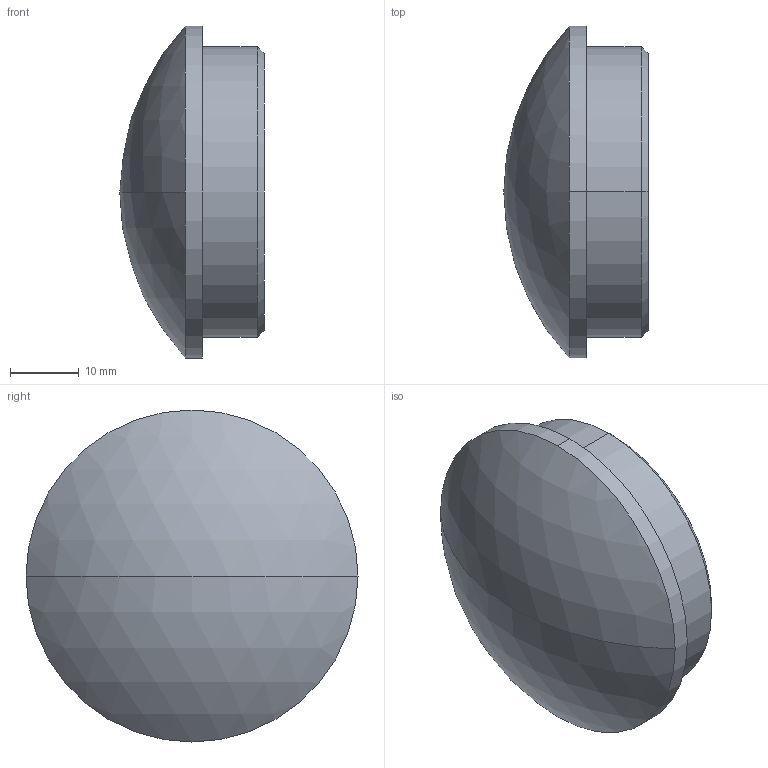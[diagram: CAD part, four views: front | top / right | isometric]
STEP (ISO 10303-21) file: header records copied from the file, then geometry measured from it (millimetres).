
FILE_DESCRIPTION (( 'STEP AP203' ), '1' );
FILE_NAME ('3D_GR1392_DN48.3x3_18380266.STEP', '2024-09-21T10:25:29', ( '' ), ( '' ), 'SwSTEP 2.0', 'SolidWorks 2024', '' );
FILE_SCHEMA (( 'CONFIG_CONTROL_DESIGN' ));
Length unit declared in the file: millimetre
Products named in the file (1): 3D_GR1392_DN48.3x3_18380266
Bounding box: 21 x 48.3 x 48.3 mm (x, y, z)
Volume: 26315.1 mm3; surface area: 5444.2 mm2
Topology: 1 solids, 1 shells, 10 faces, 20 edges, 13 vertices
Faces by surface type: cylinder 4, cone 2, sphere 2, plane 2
Entity records: 347 total; most frequent: DIRECTION 56, CARTESIAN_POINT 44, ORIENTED_EDGE 40, AXIS2_PLACEMENT_3D 25, EDGE_CURVE 20, CIRCLE 14, VERTEX_POINT 13, EDGE_LOOP 11
